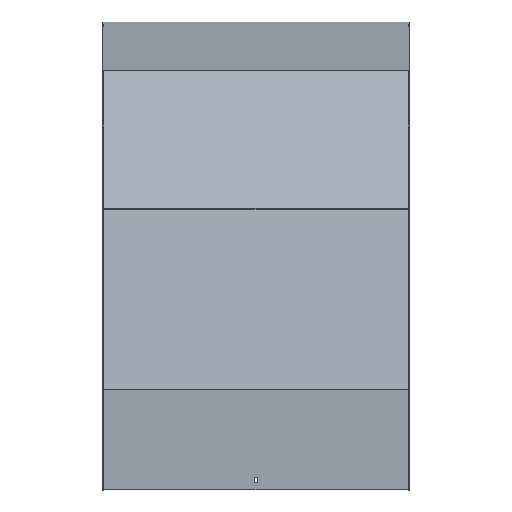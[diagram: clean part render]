
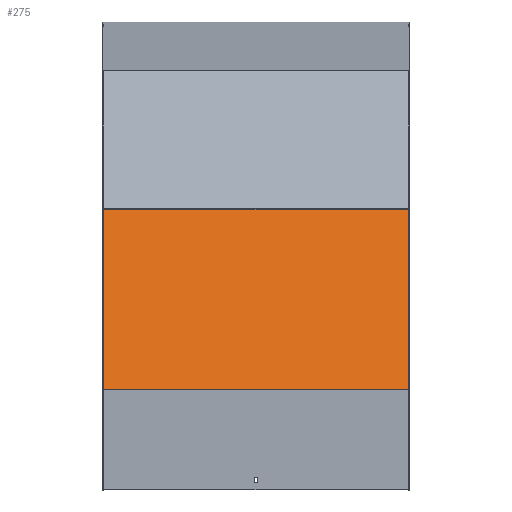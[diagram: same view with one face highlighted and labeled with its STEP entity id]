
A CAD part, top view. The second image highlights one B-rep face of the part: STEP entity #275.
In plain terms, the highlighted planar face has unit normal (0, 0.259, 0.966).
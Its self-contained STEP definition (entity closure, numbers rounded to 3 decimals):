
#24 = VECTOR ( 'NONE', #184, 1000. ) ;
#41 = EDGE_CURVE ( 'NONE', #186, #1050, #744, .T. ) ;
#43 = VERTEX_POINT ( 'NONE', #1084 ) ;
#71 = CARTESIAN_POINT ( 'NONE',  ( 251.5, -292.828, 691.748 ) ) ;
#104 = CARTESIAN_POINT ( 'NONE',  ( 251.5, -287.651, 690.361 ) ) ;
#108 = CARTESIAN_POINT ( 'NONE',  ( -251.5, -584.183, 769.816 ) ) ;
#123 = CARTESIAN_POINT ( 'NONE',  ( 251.5, -584.183, 769.816 ) ) ;
#130 = DIRECTION ( 'NONE',  ( -1., 0., 0. ) ) ;
#174 = DIRECTION ( 'NONE',  ( 0., -0.966, 0.259 ) ) ;
#184 = DIRECTION ( 'NONE',  ( -1., 0., 0. ) ) ;
#186 = VERTEX_POINT ( 'NONE', #762 ) ;
#260 = VECTOR ( 'NONE', #739, 1000. ) ;
#275 = ADVANCED_FACE ( 'NONE', ( #694 ), #1042, .F. ) ;
#277 = LINE ( 'NONE', #123, #1005 ) ;
#385 = CARTESIAN_POINT ( 'NONE',  ( 251.5, -292.828, 691.748 ) ) ;
#409 = DIRECTION ( 'NONE',  ( 0., -0.259, -0.966 ) ) ;
#441 = EDGE_LOOP ( 'NONE', ( #483, #673, #855, #760 ) ) ;
#463 = LINE ( 'NONE', #1040, #557 ) ;
#483 = ORIENTED_EDGE ( 'NONE', *, *, #887, .T. ) ;
#513 = EDGE_CURVE ( 'NONE', #1050, #984, #277, .T. ) ;
#557 = VECTOR ( 'NONE', #174, 1000. ) ;
#617 = CARTESIAN_POINT ( 'NONE',  ( 251.5, -584.183, 769.816 ) ) ;
#673 = ORIENTED_EDGE ( 'NONE', *, *, #513, .F. ) ;
#694 = FACE_OUTER_BOUND ( 'NONE', #441, .T. ) ;
#739 = DIRECTION ( 'NONE',  ( 0., -0.966, 0.259 ) ) ;
#744 = LINE ( 'NONE', #385, #260 ) ;
#760 = ORIENTED_EDGE ( 'NONE', *, *, #798, .T. ) ;
#762 = CARTESIAN_POINT ( 'NONE',  ( 251.5, -287.651, 690.361 ) ) ;
#798 = EDGE_CURVE ( 'NONE', #186, #43, #963, .T. ) ;
#855 = ORIENTED_EDGE ( 'NONE', *, *, #41, .F. ) ;
#887 = EDGE_CURVE ( 'NONE', #43, #984, #463, .T. ) ;
#963 = LINE ( 'NONE', #104, #24 ) ;
#964 = AXIS2_PLACEMENT_3D ( 'NONE', #71, #409, #1105 ) ;
#984 = VERTEX_POINT ( 'NONE', #108 ) ;
#1005 = VECTOR ( 'NONE', #130, 1000. ) ;
#1040 = CARTESIAN_POINT ( 'NONE',  ( -251.5, -292.828, 691.748 ) ) ;
#1042 = PLANE ( 'NONE',  #964 ) ;
#1050 = VERTEX_POINT ( 'NONE', #617 ) ;
#1084 = CARTESIAN_POINT ( 'NONE',  ( -251.5, -287.651, 690.361 ) ) ;
#1105 = DIRECTION ( 'NONE',  ( 0., 0.966, -0.259 ) ) ;
